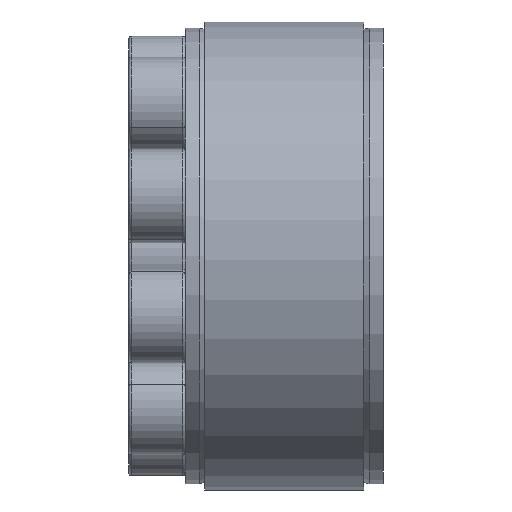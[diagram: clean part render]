
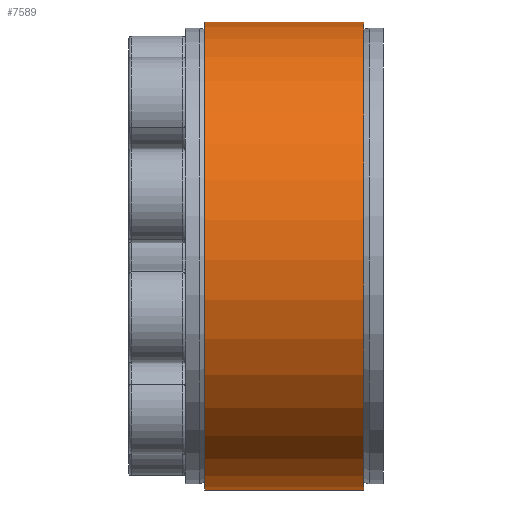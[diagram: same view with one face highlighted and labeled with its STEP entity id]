
A CAD part, front view. The second image highlights one B-rep face of the part: STEP entity #7589.
In plain terms, the highlighted cylindrical face has radius 25 mm (diameter 50 mm), a partial arc.
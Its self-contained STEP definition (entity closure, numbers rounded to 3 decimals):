
#225 = DIRECTION ( 'NONE',  ( -1., 0., 0. ) ) ;
#317 = CARTESIAN_POINT ( 'NONE',  ( 8.5, 0., 0. ) ) ;
#456 = EDGE_CURVE ( 'NONE', #2330, #6302, #5954, .T. ) ;
#554 = VERTEX_POINT ( 'NONE', #6201 ) ;
#738 = ORIENTED_EDGE ( 'NONE', *, *, #3806, .F. ) ;
#1038 = CARTESIAN_POINT ( 'NONE',  ( -10.57, -0.85, 24.986 ) ) ;
#1207 = DIRECTION ( 'NONE',  ( 1., 0., 0. ) ) ;
#1453 = LINE ( 'NONE', #1038, #4483 ) ;
#1538 = CARTESIAN_POINT ( 'NONE',  ( 8.5, -0.85, 24.986 ) ) ;
#1546 = CIRCLE ( 'NONE', #2449, 25. ) ;
#1862 = ORIENTED_EDGE ( 'NONE', *, *, #456, .T. ) ;
#2330 = VERTEX_POINT ( 'NONE', #4508 ) ;
#2449 = AXIS2_PLACEMENT_3D ( 'NONE', #5558, #5557, #5374 ) ;
#2747 = DIRECTION ( 'NONE',  ( -1., 0., 0. ) ) ;
#2754 = FACE_OUTER_BOUND ( 'NONE', #3683, .T. ) ;
#2791 = CARTESIAN_POINT ( 'NONE',  ( -10.57, 0., 0. ) ) ;
#3056 = DIRECTION ( 'NONE',  ( 0., 0., 1. ) ) ;
#3495 = ORIENTED_EDGE ( 'NONE', *, *, #5950, .F. ) ;
#3595 = LINE ( 'NONE', #6626, #3652 ) ;
#3652 = VECTOR ( 'NONE', #6853, 1000. ) ;
#3683 = EDGE_LOOP ( 'NONE', ( #738, #1862, #6403, #3495 ) ) ;
#3806 = EDGE_CURVE ( 'NONE', #2330, #5113, #3595, .T. ) ;
#4483 = VECTOR ( 'NONE', #1207, 1000. ) ;
#4508 = CARTESIAN_POINT ( 'NONE',  ( 8.5, 0.85, 24.986 ) ) ;
#5113 = VERTEX_POINT ( 'NONE', #5398 ) ;
#5374 = DIRECTION ( 'NONE',  ( 0., 0., 1. ) ) ;
#5398 = CARTESIAN_POINT ( 'NONE',  ( -8.5, 0.85, 24.986 ) ) ;
#5513 = AXIS2_PLACEMENT_3D ( 'NONE', #2791, #2747, #3056 ) ;
#5528 = CYLINDRICAL_SURFACE ( 'NONE', #5513, 25. ) ;
#5557 = DIRECTION ( 'NONE',  ( -1., 0., 0. ) ) ;
#5558 = CARTESIAN_POINT ( 'NONE',  ( -8.5, 0., 0. ) ) ;
#5950 = EDGE_CURVE ( 'NONE', #5113, #554, #1546, .T. ) ;
#5954 = CIRCLE ( 'NONE', #7738, 25. ) ;
#6201 = CARTESIAN_POINT ( 'NONE',  ( -8.5, -0.85, 24.986 ) ) ;
#6302 = VERTEX_POINT ( 'NONE', #1538 ) ;
#6403 = ORIENTED_EDGE ( 'NONE', *, *, #7129, .F. ) ;
#6626 = CARTESIAN_POINT ( 'NONE',  ( -10.57, 0.85, 24.986 ) ) ;
#6788 = DIRECTION ( 'NONE',  ( 0., 0., 1. ) ) ;
#6853 = DIRECTION ( 'NONE',  ( -1., 0., 0. ) ) ;
#7129 = EDGE_CURVE ( 'NONE', #554, #6302, #1453, .T. ) ;
#7589 = ADVANCED_FACE ( 'NONE', ( #2754 ), #5528, .T. ) ;
#7738 = AXIS2_PLACEMENT_3D ( 'NONE', #317, #225, #6788 ) ;
